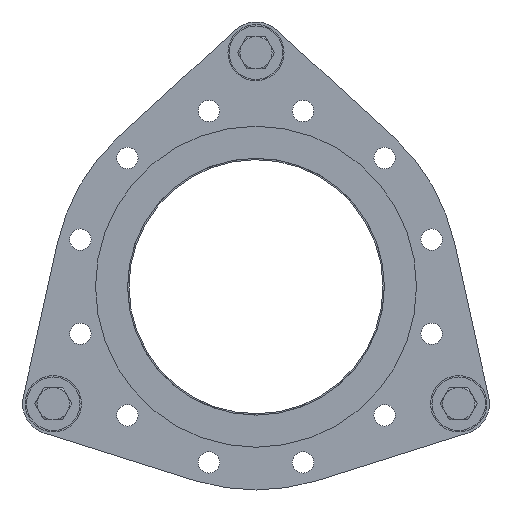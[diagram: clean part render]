
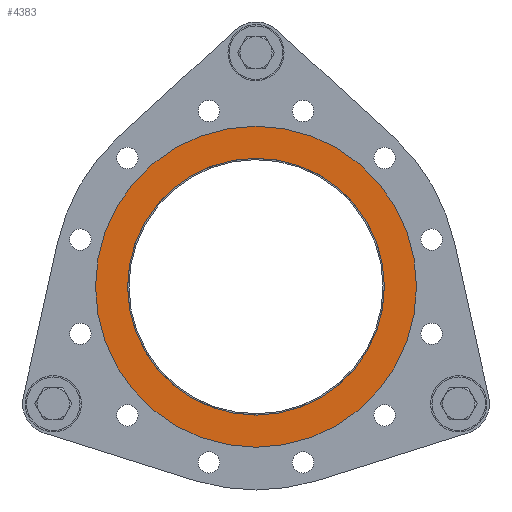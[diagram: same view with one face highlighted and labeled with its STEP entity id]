
A CAD part, front view. The second image highlights one B-rep face of the part: STEP entity #4383.
In plain terms, the highlighted planar face has unit normal (0, -1, 0).
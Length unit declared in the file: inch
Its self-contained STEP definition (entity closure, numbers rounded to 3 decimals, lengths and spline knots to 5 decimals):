
#452=PLANE('',#4795);
#640=FACE_BOUND('',#1253,.T.);
#875=FACE_OUTER_BOUND('',#1252,.T.);
#1252=EDGE_LOOP('',(#3070));
#1253=EDGE_LOOP('',(#3071));
#1779=CIRCLE('',#4791,6.);
#1780=CIRCLE('',#4793,7.5);
#2087=VERTEX_POINT('',#6830);
#2088=VERTEX_POINT('',#6833);
#2491=EDGE_CURVE('',#2087,#2087,#1779,.T.);
#2492=EDGE_CURVE('',#2088,#2088,#1780,.T.);
#3070=ORIENTED_EDGE('',*,*,#2492,.T.);
#3071=ORIENTED_EDGE('',*,*,#2491,.T.);
#4383=ADVANCED_FACE('',(#875,#640),#452,.T.);
#4791=AXIS2_PLACEMENT_3D('',#6831,#5542,#5543);
#4793=AXIS2_PLACEMENT_3D('',#6834,#5546,#5547);
#4795=AXIS2_PLACEMENT_3D('',#6837,#5550,#5551);
#5542=DIRECTION('center_axis',(0.,1.,0.));
#5543=DIRECTION('ref_axis',(-1.,0.,0.));
#5546=DIRECTION('center_axis',(0.,-1.,0.));
#5547=DIRECTION('ref_axis',(1.,0.,0.));
#5550=DIRECTION('center_axis',(0.,-1.,0.));
#5551=DIRECTION('ref_axis',(0.,0.,
1.));
#6830=CARTESIAN_POINT('',(-6.,0.,0.));
#6831=CARTESIAN_POINT('Origin',(0.,0.,
0.));
#6833=CARTESIAN_POINT('',(-7.5,0.,0.));
#6834=CARTESIAN_POINT('Origin',(0.,0.,
0.));
#6837=CARTESIAN_POINT('Origin',(0.,0.,
0.));
